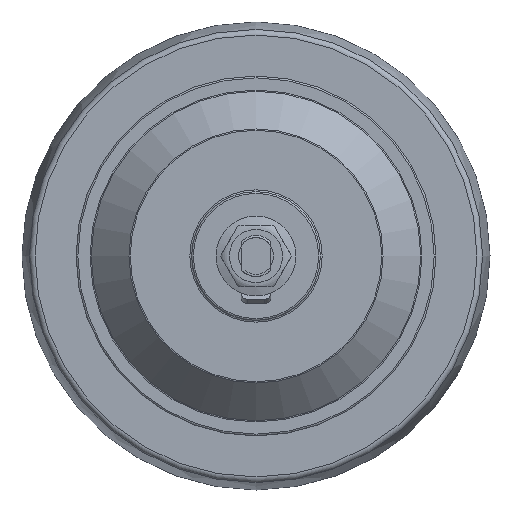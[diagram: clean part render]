
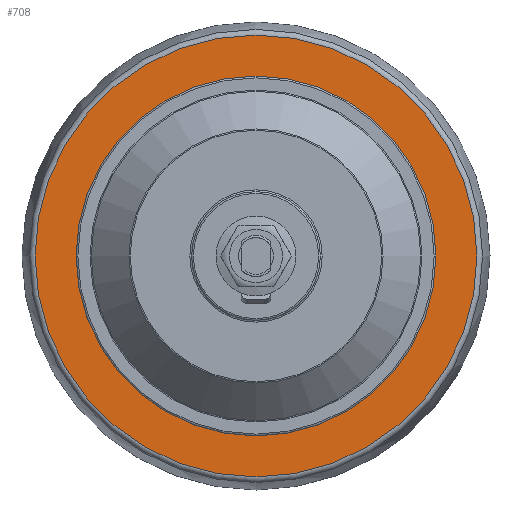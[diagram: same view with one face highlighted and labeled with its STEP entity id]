
A CAD part, left-side view. The second image highlights one B-rep face of the part: STEP entity #708.
In plain terms, the highlighted planar face has unit normal (-1, 0, 0).
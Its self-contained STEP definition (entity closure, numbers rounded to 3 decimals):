
#503=FACE_BOUND('',#1580,.T.);
#504=FACE_BOUND('',#1581,.T.);
#615=CIRCLE('',#7779,75.535);
#616=CIRCLE('',#7780,61.5);
#708=ADVANCED_FACE('',(#503,#504),#1104,.T.);
#1104=PLANE('',#7781);
#1580=EDGE_LOOP('',(#2926));
#1581=EDGE_LOOP('',(#2927));
#2926=ORIENTED_EDGE('',*,*,#5879,.T.);
#2927=ORIENTED_EDGE('',*,*,#5880,.T.);
#5056=VERTEX_POINT('',#9640);
#5057=VERTEX_POINT('',#9642);
#5879=EDGE_CURVE('',#5056,#5056,#615,.T.);
#5880=EDGE_CURVE('',#5057,#5057,#616,.T.);
#7779=AXIS2_PLACEMENT_3D('',#9639,#8304,#8305);
#7780=AXIS2_PLACEMENT_3D('',#9641,#8306,#8307);
#7781=AXIS2_PLACEMENT_3D('',#9643,#8308,#8309);
#8304=DIRECTION('',(-1.,0.,0.));
#8305=DIRECTION('',(0.,0.,1.));
#8306=DIRECTION('',(1.,0.,0.));
#8307=DIRECTION('',(0.,0.,-1.));
#8308=DIRECTION('',(-1.,0.,0.));
#8309=DIRECTION('',(0.,0.,1.));
#9639=CARTESIAN_POINT('',(0.,0.,0.));
#9640=CARTESIAN_POINT('',(0.,0.,75.535));
#9641=CARTESIAN_POINT('',(0.,0.,0.));
#9642=CARTESIAN_POINT('',(0.,0.,-61.5));
#9643=CARTESIAN_POINT('',(0.,0.,77.));
